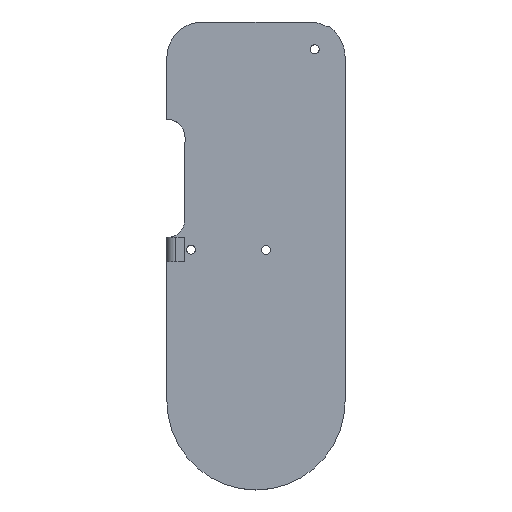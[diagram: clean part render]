
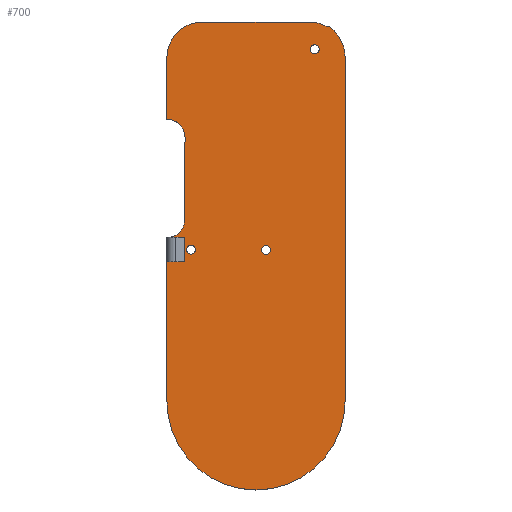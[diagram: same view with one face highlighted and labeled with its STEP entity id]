
A CAD part, top view. The second image highlights one B-rep face of the part: STEP entity #700.
In plain terms, the highlighted planar face has unit normal (0, 0, 1).
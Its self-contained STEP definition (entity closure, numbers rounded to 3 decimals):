
#50=FACE_BOUND('',#137,.T.);
#51=FACE_BOUND('',#138,.T.);
#52=FACE_BOUND('',#139,.T.);
#92=FACE_OUTER_BOUND('',#136,.T.);
#136=EDGE_LOOP('',(#627,#628,#629,#630,#631,#632,#633,#634,#635,#636,#637,
#638,#639,#640,#641,#642));
#137=EDGE_LOOP('',(#643));
#138=EDGE_LOOP('',(#644));
#139=EDGE_LOOP('',(#645));
#150=CIRCLE('',#727,5.);
#151=CIRCLE('',#731,5.);
#166=CIRCLE('',#768,25.);
#167=CIRCLE('',#771,10.91);
#172=CIRCLE('',#779,1.25);
#173=CIRCLE('',#781,1.25);
#174=CIRCLE('',#783,1.25);
#177=CIRCLE('',#791,10.);
#178=CIRCLE('',#794,10.);
#188=LINE('',#1069,#242);
#192=LINE('',#1091,#246);
#193=LINE('',#1095,#247);
#197=LINE('',#1103,#251);
#205=LINE('',#1121,#259);
#208=LINE('',#1134,#262);
#216=LINE('',#1199,#270);
#219=LINE('',#1207,#273);
#229=LINE('',#1248,#283);
#231=LINE('',#1255,#285);
#242=VECTOR('',#835,10.);
#246=VECTOR('',#847,10.);
#247=VECTOR('',#850,10.);
#251=VECTOR('',#856,10.);
#259=VECTOR('',#874,10.);
#262=VECTOR('',#891,10.);
#270=VECTOR('',#939,10.);
#273=VECTOR('',#948,10.);
#283=VECTOR('',#998,10.);
#285=VECTOR('',#1006,10.);
#304=VERTEX_POINT('',#1051);
#305=VERTEX_POINT('',#1053);
#307=VERTEX_POINT('',#1068);
#310=VERTEX_POINT('',#1085);
#311=VERTEX_POINT('',#1087);
#312=VERTEX_POINT('',#1093);
#313=VERTEX_POINT('',#1094);
#316=VERTEX_POINT('',#1102);
#324=VERTEX_POINT('',#1133);
#333=VERTEX_POINT('',#1197);
#334=VERTEX_POINT('',#1201);
#335=VERTEX_POINT('',#1205);
#336=VERTEX_POINT('',#1209);
#341=VERTEX_POINT('',#1225);
#342=VERTEX_POINT('',#1229);
#343=VERTEX_POINT('',#1233);
#346=VERTEX_POINT('',#1246);
#347=VERTEX_POINT('',#1250);
#348=VERTEX_POINT('',#1254);
#367=EDGE_CURVE('',#304,#305,#150,.T.);
#370=EDGE_CURVE('',#307,#305,#188,.T.);
#375=EDGE_CURVE('',#310,#311,#151,.T.);
#377=EDGE_CURVE('',#304,#311,#192,.T.);
#378=EDGE_CURVE('',#312,#313,#193,.T.);
#382=EDGE_CURVE('',#313,#316,#197,.T.);
#392=EDGE_CURVE('',#312,#310,#205,.T.);
#398=EDGE_CURVE('',#324,#307,#208,.T.);
#418=EDGE_CURVE('',#316,#333,#216,.T.);
#420=EDGE_CURVE('',#333,#334,#166,.T.);
#422=EDGE_CURVE('',#334,#335,#219,.T.);
#424=EDGE_CURVE('',#335,#336,#167,.T.);
#432=EDGE_CURVE('',#341,#341,#172,.T.);
#434=EDGE_CURVE('',#342,#342,#173,.T.);
#436=EDGE_CURVE('',#343,#343,#174,.T.);
#442=EDGE_CURVE('',#336,#346,#229,.T.);
#443=EDGE_CURVE('',#347,#324,#177,.T.);
#445=EDGE_CURVE('',#348,#347,#231,.T.);
#447=EDGE_CURVE('',#346,#348,#178,.T.);
#627=ORIENTED_EDGE('',*,*,#382,.T.);
#628=ORIENTED_EDGE('',*,*,#418,.T.);
#629=ORIENTED_EDGE('',*,*,#420,.T.);
#630=ORIENTED_EDGE('',*,*,#422,.T.);
#631=ORIENTED_EDGE('',*,*,#424,.T.);
#632=ORIENTED_EDGE('',*,*,#442,.T.);
#633=ORIENTED_EDGE('',*,*,#447,.T.);
#634=ORIENTED_EDGE('',*,*,#445,.T.);
#635=ORIENTED_EDGE('',*,*,#443,.T.);
#636=ORIENTED_EDGE('',*,*,#398,.T.);
#637=ORIENTED_EDGE('',*,*,#370,.T.);
#638=ORIENTED_EDGE('',*,*,#367,.F.);
#639=ORIENTED_EDGE('',*,*,#377,.T.);
#640=ORIENTED_EDGE('',*,*,#375,.F.);
#641=ORIENTED_EDGE('',*,*,#392,.F.);
#642=ORIENTED_EDGE('',*,*,#378,.T.);
#643=ORIENTED_EDGE('',*,*,#432,.T.);
#644=ORIENTED_EDGE('',*,*,#434,.T.);
#645=ORIENTED_EDGE('',*,*,#436,.T.);
#660=PLANE('',#795);
#700=ADVANCED_FACE('',(#92,#50,#51,#52),#660,.T.);
#727=AXIS2_PLACEMENT_3D('',#1054,#830,#831);
#731=AXIS2_PLACEMENT_3D('',#1088,#842,#843);
#768=AXIS2_PLACEMENT_3D('',#1203,#943,#944);
#771=AXIS2_PLACEMENT_3D('',#1211,#952,#953);
#779=AXIS2_PLACEMENT_3D('',#1227,#971,#972);
#781=AXIS2_PLACEMENT_3D('',#1231,#976,#977);
#783=AXIS2_PLACEMENT_3D('',#1235,#981,#982);
#791=AXIS2_PLACEMENT_3D('',#1251,#1001,#1002);
#794=AXIS2_PLACEMENT_3D('',#1258,#1010,#1011);
#795=AXIS2_PLACEMENT_3D('',#1259,#1012,#1013);
#830=DIRECTION('center_axis',(0.,0.,1.));
#831=DIRECTION('ref_axis',(0.709,0.705,0.));
#835=DIRECTION('',(1.,-0.002,0.));
#842=DIRECTION('center_axis',(0.,0.,1.));
#843=DIRECTION('ref_axis',(0.705,-0.709,0.));
#847=DIRECTION('',(-0.002,-1.,0.));
#850=DIRECTION('',(-0.002,-1.,0.));
#856=DIRECTION('',(-1.,0.002,0.));
#874=DIRECTION('',(-1.,0.002,0.));
#891=DIRECTION('',(0.,-1.,0.));
#939=DIRECTION('',(0.,-1.,0.));
#943=DIRECTION('center_axis',(0.,0.,1.));
#944=DIRECTION('ref_axis',(1.,0.,0.));
#948=DIRECTION('',(0.,1.,0.));
#952=DIRECTION('center_axis',(0.,0.,1.));
#953=DIRECTION('ref_axis',(0.599,0.801,0.));
#971=DIRECTION('center_axis',(0.,0.,-1.));
#972=DIRECTION('ref_axis',(1.,0.,0.));
#976=DIRECTION('center_axis',(0.,0.,-1.));
#977=DIRECTION('ref_axis',(1.,0.,0.));
#981=DIRECTION('center_axis',(0.,0.,-1.));
#982=DIRECTION('ref_axis',(1.,0.,0.));
#998=DIRECTION('',(-0.997,-0.075,0.));
#1001=DIRECTION('center_axis',(0.,0.,1.));
#1002=DIRECTION('ref_axis',(0.,1.,0.));
#1006=DIRECTION('',(-1.,0.,0.));
#1010=DIRECTION('center_axis',(0.,0.,1.));
#1011=DIRECTION('ref_axis',(1.,0.,0.));
#1012=DIRECTION('center_axis',(0.,0.,1.));
#1013=DIRECTION('ref_axis',(1.,0.,0.));
#1051=CARTESIAN_POINT('',(-9.841,74.002,5.));
#1053=CARTESIAN_POINT('',(-14.829,79.014,5.));
#1054=CARTESIAN_POINT('Origin',(-14.841,74.014,5.));
#1068=CARTESIAN_POINT('',(-14.924,79.014,5.));
#1069=CARTESIAN_POINT('',(-1.296,78.982,5.));
#1085=CARTESIAN_POINT('',(-14.908,45.862,5.));
#1087=CARTESIAN_POINT('',(-9.896,50.851,5.));
#1088=CARTESIAN_POINT('Origin',(-14.896,50.862,5.));
#1091=CARTESIAN_POINT('',(-9.922,39.854,5.));
#1093=CARTESIAN_POINT('',(-9.908,45.851,5.));
#1094=CARTESIAN_POINT('',(-9.924,39.002,5.));
#1095=CARTESIAN_POINT('',(-9.922,39.854,5.));
#1102=CARTESIAN_POINT('',(-14.924,39.014,5.));
#1103=CARTESIAN_POINT('',(-1.391,38.982,5.));
#1121=CARTESIAN_POINT('',(0.09,45.827,5.));
#1133=CARTESIAN_POINT('',(-14.924,96.308,5.));
#1134=CARTESIAN_POINT('',(-14.924,96.308,5.));
#1197=CARTESIAN_POINT('',(-14.924,0.009,5.));
#1199=CARTESIAN_POINT('',(-14.924,96.308,5.));
#1201=CARTESIAN_POINT('',(35.076,0.009,5.));
#1203=CARTESIAN_POINT('Origin',(10.076,0.009,5.));
#1205=CARTESIAN_POINT('',(35.076,96.308,5.));
#1207=CARTESIAN_POINT('',(35.076,96.308,5.));
#1209=CARTESIAN_POINT('',(30.701,105.045,5.));
#1211=CARTESIAN_POINT('Origin',(24.166,96.308,5.));
#1225=CARTESIAN_POINT('',(-9.381,42.423,5.));
#1227=CARTESIAN_POINT('Origin',(-8.131,42.423,5.));
#1229=CARTESIAN_POINT('',(11.655,42.319,5.));
#1231=CARTESIAN_POINT('Origin',(12.905,42.319,5.));
#1233=CARTESIAN_POINT('',(25.297,98.658,5.));
#1235=CARTESIAN_POINT('Origin',(26.547,98.658,5.));
#1246=CARTESIAN_POINT('',(30.031,104.994,5.));
#1248=CARTESIAN_POINT('',(0.155,102.751,5.));
#1250=CARTESIAN_POINT('',(-4.924,106.308,5.));
#1251=CARTESIAN_POINT('Origin',(-4.924,96.308,5.));
#1254=CARTESIAN_POINT('',(25.076,106.308,5.));
#1255=CARTESIAN_POINT('',(-4.924,106.308,5.));
#1258=CARTESIAN_POINT('Origin',(25.076,96.308,5.));
#1259=CARTESIAN_POINT('Origin',(10.076,40.659,5.));
